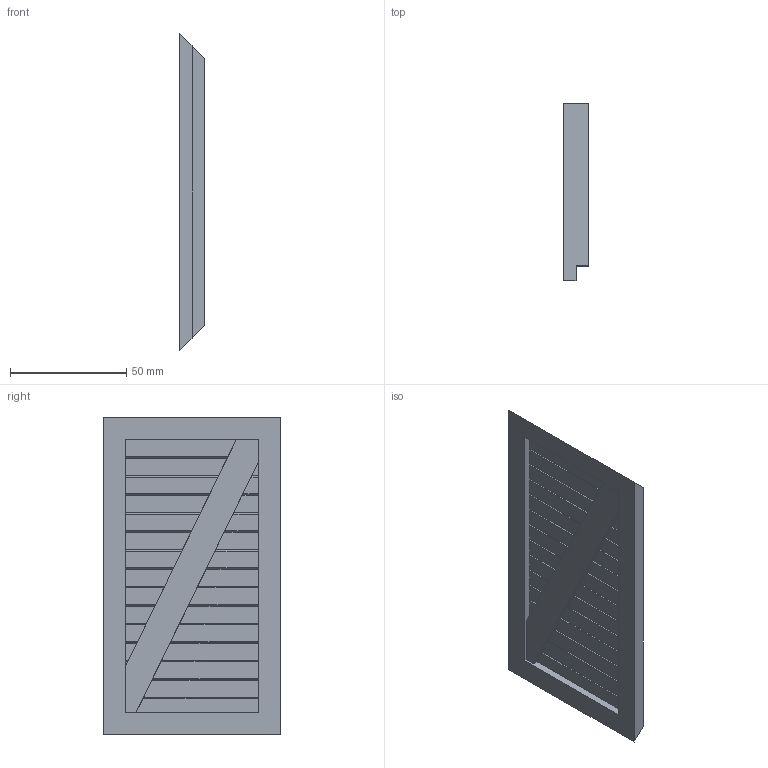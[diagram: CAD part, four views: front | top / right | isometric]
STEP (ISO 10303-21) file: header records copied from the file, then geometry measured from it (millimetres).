
FILE_DESCRIPTION (( 'STEP AP203' ), '1' );
FILE_NAME ('1x6 poplar Box side.STEP', '2018-03-02T19:48:38', ( '' ), ( '' ), 'SwSTEP 2.0', 'SolidWorks 2015', '' );
FILE_SCHEMA (( 'CONFIG_CONTROL_DESIGN' ));
Length unit declared in the file: inch
Products named in the file (1): 1x6 poplar Box side
Bounding box: 11.11 x 76.2 x 136.53 mm (x, y, z)
Volume: 83827.6 mm3; surface area: 26255.3 mm2
Topology: 1 solids, 1 shells, 92 faces, 267 edges, 178 vertices
Faces by surface type: plane 92
Entity records: 3050 total; most frequent: CARTESIAN_POINT 538, ORIENTED_EDGE 534, DIRECTION 453, EDGE_CURVE 267, LINE 267, VECTOR 267, VERTEX_POINT 178, AXIS2_PLACEMENT_3D 93
